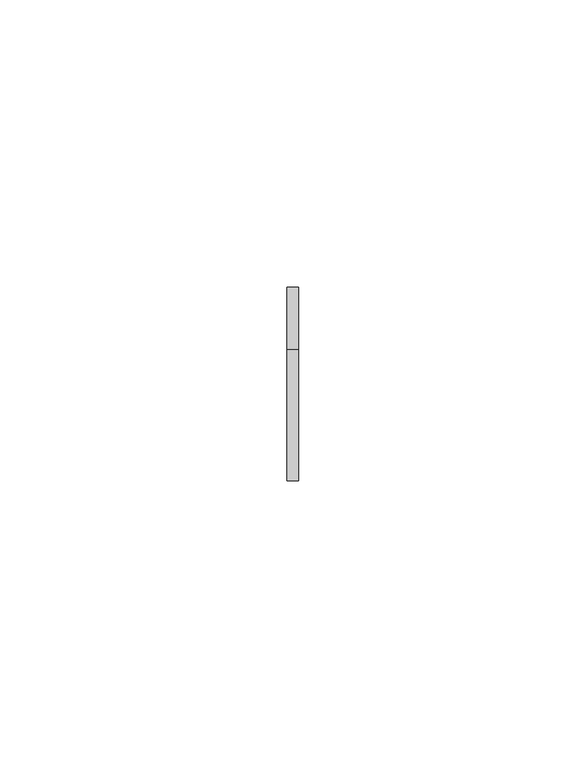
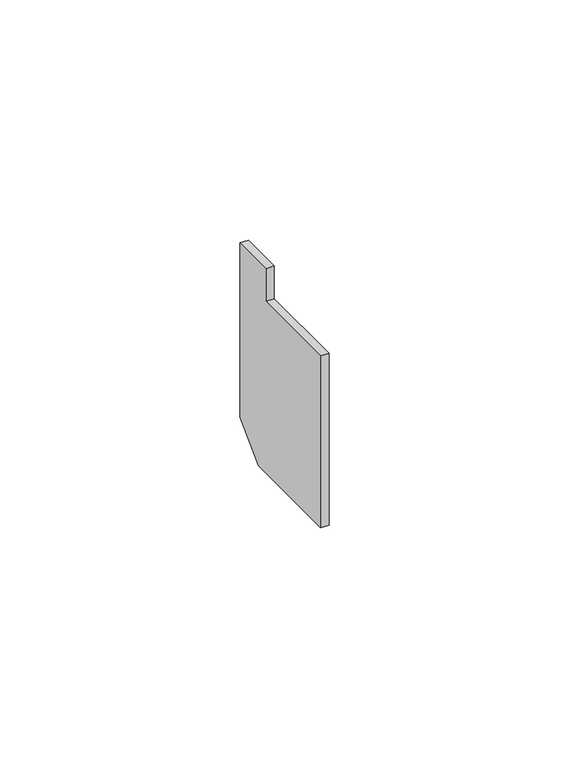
"""IFC4 building model written with IfcOpenShell, lengths in millimetres: proxy geometry, Odbojnik - OPK20R : Odbojnik - OPK20R."""

from ifc_helpers import new_model, si_unit, frame, origin, place, context, project, spatial, polyline, outline, extrude, source, transform, mapped, element, save


def generic_models_c5aa8d74(model_context):
    return source(origin(), model_context, "Body", "SweptSolid", [
        extrude(outline(polyline([(152.3541821, 40.0654523), (152.3541821, -4.2294408), (144.6541844, -11.9294385), (118.7541828, -11.9294385), (118.7541828, 31.7785354), (141.5541821, 31.7785354), (141.5541821, 40.0654523), (152.3541821, 40.0654523)])), frame((-3.0, 0.0, 0.0), z_axis=(1.0, 0.0, 0.0), x_axis=(0.0, 1.0, 0.0)), (0.0, 0.0, 1.0), 2.0),
    ])


if __name__ == "__main__":
    model = new_model("IFC4")
    model_context = context("Model", 3, world=origin())
    ifc_project = project(units=[si_unit("LENGTHUNIT", "METRE", prefix="MILLI")], contexts=[model_context])
    site = spatial("IfcSite", under=ifc_project)
    building = spatial("IfcBuilding", under=site)
    placement = place(None, origin())
    generic_models_shape = generic_models_c5aa8d74(model_context)
    element("IfcBuildingElementProxy", 1, Name="Odbojnik - OPK20R : Odbojnik - OPK20R", ObjectType="Odbojnik - OPK20R : Odbojnik - OPK20R", at=placement, inside=building, context=model_context, shape_type="MappedRepresentation", body=[
        mapped(generic_models_shape, transform((0.0, 0.0, 0.0), x_axis=(1.0, 0.0, 0.0), y_axis=(0.0, 1.0, 0.0), z_axis=(0.0, 0.0, 1.0))),
    ])
    save(model, "model.ifc")
